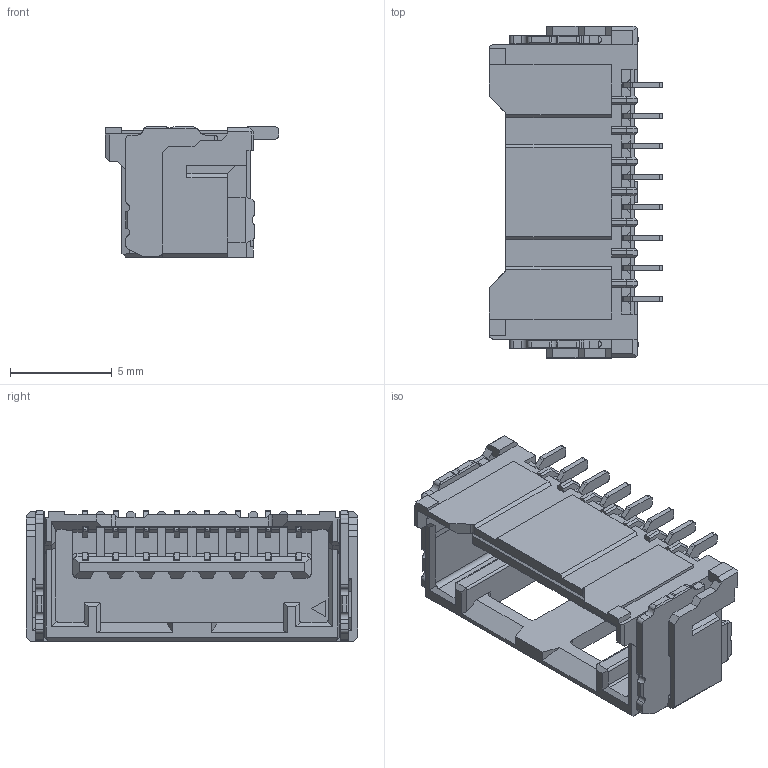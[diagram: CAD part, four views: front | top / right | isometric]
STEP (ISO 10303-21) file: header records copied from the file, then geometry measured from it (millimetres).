
FILE_DESCRIPTION (( 'STEP AP203' ), '1' );
FILE_NAME ('GT-A1515WRS-108SMT01.STEP', '2024-09-25T10:39:07', ( '' ), ( '' ), 'SwSTEP 2.0', 'SolidWorks 2020', '' );
FILE_SCHEMA (( 'CONFIG_CONTROL_DESIGN' ));
Products named in the file (1): GT-A1515WRS-108SMT01
Bounding box: 8.5 x 16.3 x 6.4 mm (x, y, z)
Volume: 291 mm3; surface area: 1010.1 mm2
Topology: 1 solids, 1 shells, 1570 faces, 4507 edges, 2958 vertices
Faces by surface type: plane 1183, cylinder 314, bspline 71, cone 2
Entity records: 54571 total; most frequent: CARTESIAN_POINT 13956, ORIENTED_EDGE 9010, DIRECTION 7607, EDGE_CURVE 4505, LINE 3599, VECTOR 3599, VERTEX_POINT 2958, AXIS2_PLACEMENT_3D 2004
